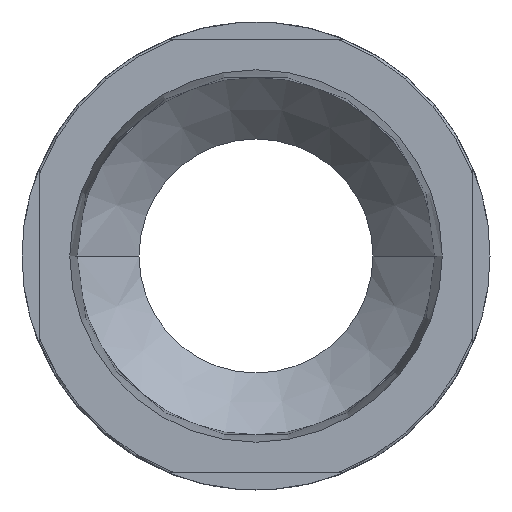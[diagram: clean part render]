
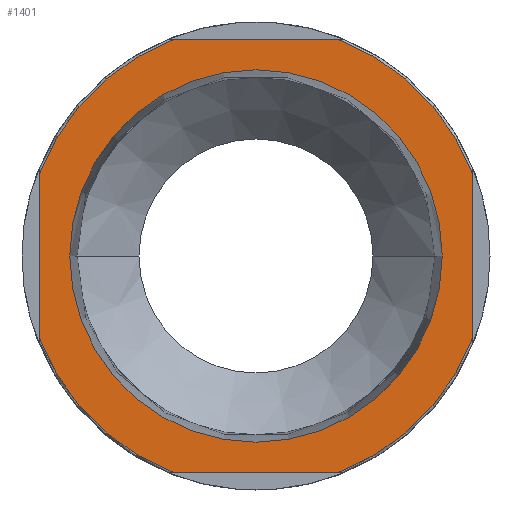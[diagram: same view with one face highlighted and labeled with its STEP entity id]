
A CAD part, front view. The second image highlights one B-rep face of the part: STEP entity #1401.
In plain terms, the highlighted planar face has unit normal (0, -1, 0).
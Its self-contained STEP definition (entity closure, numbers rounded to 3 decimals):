
#19 = VERTEX_POINT ( 'NONE', #1017 ) ;
#36 = DIRECTION ( 'NONE',  ( 0., 0., -1. ) ) ;
#65 = CIRCLE ( 'NONE', #1060, 19.8 ) ;
#101 = VECTOR ( 'NONE', #1504, 1000. ) ;
#133 = EDGE_CURVE ( 'NONE', #2154, #747, #1347, .T. ) ;
#202 = AXIS2_PLACEMENT_3D ( 'NONE', #1953, #1964, #2104 ) ;
#225 = CARTESIAN_POINT ( 'NONE',  ( -37.772, -47.887, 11.702 ) ) ;
#229 = VERTEX_POINT ( 'NONE', #1410 ) ;
#234 = DIRECTION ( 'NONE',  ( 0., -1., 0. ) ) ;
#235 = DIRECTION ( 'NONE',  ( -1., 0., 0. ) ) ;
#244 = DIRECTION ( 'NONE',  ( -1., 0., 0. ) ) ;
#258 = EDGE_CURVE ( 'NONE', #19, #1196, #1600, .T. ) ;
#282 = CIRCLE ( 'NONE', #875, 15.913 ) ;
#290 = ORIENTED_EDGE ( 'NONE', *, *, #133, .F. ) ;
#329 = VECTOR ( 'NONE', #1916, 1000. ) ;
#397 = VERTEX_POINT ( 'NONE', #1049 ) ;
#422 = AXIS2_PLACEMENT_3D ( 'NONE', #1527, #1524, #514 ) ;
#424 = CARTESIAN_POINT ( 'NONE',  ( -30.716, -47.887, 30.202 ) ) ;
#430 = CARTESIAN_POINT ( 'NONE',  ( -19.272, -47.887, 18.759 ) ) ;
#447 = FACE_BOUND ( 'NONE', #1951, .T. ) ;
#467 = ORIENTED_EDGE ( 'NONE', *, *, #2011, .T. ) ;
#483 = ORIENTED_EDGE ( 'NONE', *, *, #1103, .F. ) ;
#497 = CIRCLE ( 'NONE', #202, 19.8 ) ;
#503 = VECTOR ( 'NONE', #1240, 1000. ) ;
#507 = AXIS2_PLACEMENT_3D ( 'NONE', #672, #1400, #728 ) ;
#514 = DIRECTION ( 'NONE',  ( -1., 0., 0. ) ) ;
#521 = ORIENTED_EDGE ( 'NONE', *, *, #1563, .F. ) ;
#574 = CARTESIAN_POINT ( 'NONE',  ( -27.772, -47.887, 30.202 ) ) ;
#630 = ORIENTED_EDGE ( 'NONE', *, *, #1747, .T. ) ;
#672 = CARTESIAN_POINT ( 'NONE',  ( -27.772, -47.887, 11.702 ) ) ;
#728 = DIRECTION ( 'NONE',  ( -1., 0., 0. ) ) ;
#747 = VERTEX_POINT ( 'NONE', #1346 ) ;
#772 = DIRECTION ( 'NONE',  ( -1., 0., 0. ) ) ;
#838 = CIRCLE ( 'NONE', #422, 19.8 ) ;
#871 = ORIENTED_EDGE ( 'NONE', *, *, #1340, .T. ) ;
#875 = AXIS2_PLACEMENT_3D ( 'NONE', #1098, #2111, #235 ) ;
#897 = VERTEX_POINT ( 'NONE', #935 ) ;
#935 = CARTESIAN_POINT ( 'NONE',  ( -44.828, -47.887, 30.202 ) ) ;
#1017 = CARTESIAN_POINT ( 'NONE',  ( -56.272, -47.887, 4.646 ) ) ;
#1026 = EDGE_LOOP ( 'NONE', ( #290, #467, #2085, #871, #2150, #630, #483, #1226 ) ) ;
#1033 = VERTEX_POINT ( 'NONE', #2003 ) ;
#1049 = CARTESIAN_POINT ( 'NONE',  ( -53.685, -47.887, 11.702 ) ) ;
#1060 = AXIS2_PLACEMENT_3D ( 'NONE', #1602, #1624, #1632 ) ;
#1098 = CARTESIAN_POINT ( 'NONE',  ( -37.772, -47.887, 11.702 ) ) ;
#1101 = AXIS2_PLACEMENT_3D ( 'NONE', #225, #234, #244 ) ;
#1103 = EDGE_CURVE ( 'NONE', #1033, #229, #1853, .T. ) ;
#1175 = CARTESIAN_POINT ( 'NONE',  ( -56.272, -47.887, 18.759 ) ) ;
#1196 = VERTEX_POINT ( 'NONE', #1175 ) ;
#1226 = ORIENTED_EDGE ( 'NONE', *, *, #1415, .T. ) ;
#1240 = DIRECTION ( 'NONE',  ( 0., 0., 1. ) ) ;
#1241 = CARTESIAN_POINT ( 'NONE',  ( -21.859, -47.887, 11.702 ) ) ;
#1301 = CIRCLE ( 'NONE', #2149, 19.8 ) ;
#1303 = VECTOR ( 'NONE', #36, 1000. ) ;
#1321 = CIRCLE ( 'NONE', #1101, 15.913 ) ;
#1340 = EDGE_CURVE ( 'NONE', #897, #1196, #838, .T. ) ;
#1346 = CARTESIAN_POINT ( 'NONE',  ( -19.272, -47.887, 4.646 ) ) ;
#1347 = LINE ( 'NONE', #2055, #1303 ) ;
#1378 = DIRECTION ( 'NONE',  ( 0., -1., 0. ) ) ;
#1400 = DIRECTION ( 'NONE',  ( 0., -1., 0. ) ) ;
#1401 = ADVANCED_FACE ( 'NONE', ( #1812, #447 ), #1517, .T. ) ;
#1404 = CARTESIAN_POINT ( 'NONE',  ( -56.272, -47.887, 11.702 ) ) ;
#1410 = CARTESIAN_POINT ( 'NONE',  ( -44.828, -47.887, -6.798 ) ) ;
#1415 = EDGE_CURVE ( 'NONE', #1033, #747, #1301, .T. ) ;
#1483 = EDGE_CURVE ( 'NONE', #897, #1863, #2080, .T. ) ;
#1504 = DIRECTION ( 'NONE',  ( -1., 0., 0. ) ) ;
#1517 = PLANE ( 'NONE',  #507 ) ;
#1524 = DIRECTION ( 'NONE',  ( 0., -1., 0. ) ) ;
#1527 = CARTESIAN_POINT ( 'NONE',  ( -37.772, -47.887, 11.702 ) ) ;
#1563 = EDGE_CURVE ( 'NONE', #397, #2125, #282, .T. ) ;
#1578 = CARTESIAN_POINT ( 'NONE',  ( -37.772, -47.887, 11.702 ) ) ;
#1600 = LINE ( 'NONE', #1404, #503 ) ;
#1602 = CARTESIAN_POINT ( 'NONE',  ( -37.772, -47.887, 11.702 ) ) ;
#1624 = DIRECTION ( 'NONE',  ( 0., -1., 0. ) ) ;
#1632 = DIRECTION ( 'NONE',  ( -1., 0., 0. ) ) ;
#1747 = EDGE_CURVE ( 'NONE', #19, #229, #65, .T. ) ;
#1812 = FACE_OUTER_BOUND ( 'NONE', #1026, .T. ) ;
#1824 = EDGE_CURVE ( 'NONE', #2125, #397, #1321, .T. ) ;
#1853 = LINE ( 'NONE', #2017, #101 ) ;
#1863 = VERTEX_POINT ( 'NONE', #424 ) ;
#1916 = DIRECTION ( 'NONE',  ( 1., 0., 0. ) ) ;
#1951 = EDGE_LOOP ( 'NONE', ( #521, #2005 ) ) ;
#1953 = CARTESIAN_POINT ( 'NONE',  ( -37.772, -47.887, 11.702 ) ) ;
#1964 = DIRECTION ( 'NONE',  ( 0., -1., 0. ) ) ;
#2003 = CARTESIAN_POINT ( 'NONE',  ( -30.716, -47.887, -6.798 ) ) ;
#2005 = ORIENTED_EDGE ( 'NONE', *, *, #1824, .F. ) ;
#2011 = EDGE_CURVE ( 'NONE', #2154, #1863, #497, .T. ) ;
#2017 = CARTESIAN_POINT ( 'NONE',  ( -27.772, -47.887, -6.798 ) ) ;
#2055 = CARTESIAN_POINT ( 'NONE',  ( -19.272, -47.887, 11.702 ) ) ;
#2080 = LINE ( 'NONE', #574, #329 ) ;
#2085 = ORIENTED_EDGE ( 'NONE', *, *, #1483, .F. ) ;
#2104 = DIRECTION ( 'NONE',  ( -1., 0., 0. ) ) ;
#2111 = DIRECTION ( 'NONE',  ( 0., -1., 0. ) ) ;
#2125 = VERTEX_POINT ( 'NONE', #1241 ) ;
#2149 = AXIS2_PLACEMENT_3D ( 'NONE', #1578, #1378, #772 ) ;
#2150 = ORIENTED_EDGE ( 'NONE', *, *, #258, .F. ) ;
#2154 = VERTEX_POINT ( 'NONE', #430 ) ;
